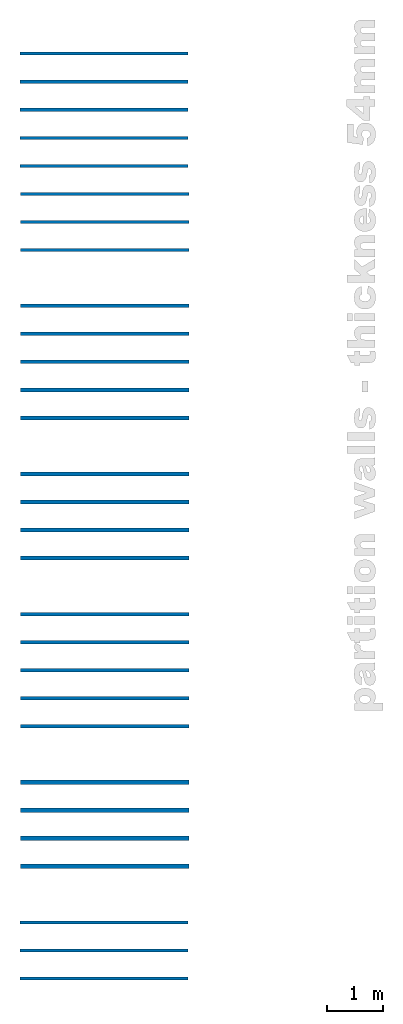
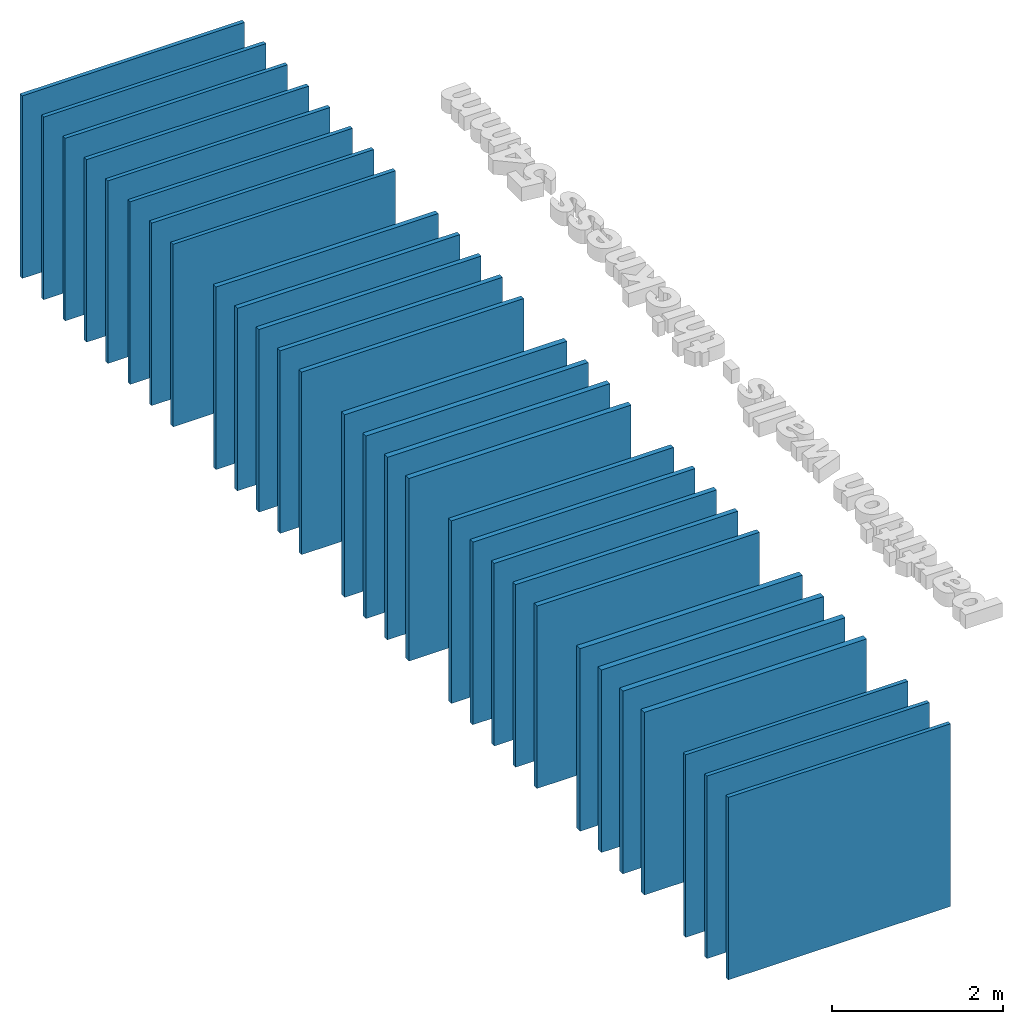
# One storey, incomplete: 29 walls.
"""IFC2X3 building model written with IfcOpenShell, lengths in millimetres."""

import ifcopenshell
import ifcopenshell.guid

model = None  # the IFC model being written
_history = None  # IfcOwnerHistory: only IFC2X3 demands one
_inside = {}  # id of a spatial element -> (the spatial element, [elements in it])
_under = {}  # id of a project, library or spatial element -> (it, [spatial elements below it])
_declared = {}  # id of a project -> (the project, [libraries it declares])
_typed = {}  # id of a type object -> (the type object, [elements of that type])
_made_of = {}  # id of a material, layer set ... -> (it, [elements and type objects made of it])


def new_model(schema):
    """Start an empty IFC model of exactly this schema.

    Asked for "IFC4X3", IfcOpenShell would pick the latest addendum, in which some entities
    have other attributes; the version numbers below select the first issue.
    IFC2X3 requires an IfcOwnerHistory on every rooted entity: one is made here for all.
    """
    global model, _history
    if schema == "IFC4X3":
        model = ifcopenshell.file(schema_version=(4, 3, 0, 0))
    else:
        model = ifcopenshell.file(schema=schema)
    _inside.clear()
    _under.clear()
    _declared.clear()
    _typed.clear()
    _made_of.clear()
    _history = None
    if model.schema == "IFC2X3":
        org = make("IfcOrganization", Name="unknown")
        user = make(
            "IfcPersonAndOrganization",
            ThePerson=make("IfcPerson", FamilyName="unknown"),
            TheOrganization=org,
        )
        app = make(
            "IfcApplication",
            ApplicationDeveloper=org,
            Version="unknown",
            ApplicationFullName="unknown",
            ApplicationIdentifier="unknown",
        )
        _history = make(
            "IfcOwnerHistory",
            OwningUser=user,
            OwningApplication=app,
            ChangeAction="ADDED",
            CreationDate=0,
        )
    return model


def make(cls, **values):
    """One entity of the class cls with the attributes given. An attribute that is None is left unset."""
    return model.create_entity(
        cls, **{name: value for name, value in values.items() if value is not None}
    )


def entity(cls, *values):
    """Any entity or typed value of the class cls, its attributes in the order of the schema. None: left unset."""
    e = model.create_entity(cls)
    for i, value in enumerate(values):
        if value is not None:
            e[i] = value
    return e


def rooted(cls, **values):
    """An entity with a GlobalId (a new one), such as an element, a storey or a relation."""
    return make(cls, GlobalId=ifcopenshell.guid.new(), OwnerHistory=_history, **values)


def si_unit(unit_type, name, prefix=None):
    """IfcSIUnit, for example si_unit("LENGTHUNIT", "METRE", prefix="MILLI")."""
    return make("IfcSIUnit", UnitType=unit_type, Prefix=prefix, Name=name)


def converted_unit(unit_type, name, factor, base, dimensions=None, offset=None):
    """IfcConversionBasedUnit, such as the inch: factor (a typed value) times the base unit."""
    return make(
        "IfcConversionBasedUnit"
        if offset is None
        else "IfcConversionBasedUnitWithOffset",
        ConversionOffset=offset,
        Dimensions=None
        if dimensions is None
        else entity("IfcDimensionalExponents", *dimensions),
        UnitType=unit_type,
        Name=name,
        ConversionFactor=make(
            "IfcMeasureWithUnit", ValueComponent=factor, UnitComponent=base
        ),
    )


def derived_unit(unit_type, elements):
    """IfcDerivedUnit: a product of units, each with its exponent."""
    return make(
        "IfcDerivedUnit",
        Elements=[
            make("IfcDerivedUnitElement", Unit=unit, Exponent=power)
            for unit, power in elements
        ],
        UnitType=unit_type,
    )


def assignment(units):
    """IfcUnitAssignment: the units of a project."""
    return None if units is None else make("IfcUnitAssignment", Units=units)


def point(xyz):
    """IfcCartesianPoint."""
    return None if xyz is None else make("IfcCartesianPoint", Coordinates=xyz)


def direction(xyz):
    """IfcDirection."""
    return None if xyz is None else make("IfcDirection", DirectionRatios=xyz)


def frame(location, z_axis=None, x_axis=None):
    """IfcAxis2Placement3D, a coordinate frame: its origin and axes. An axis left out is left unset."""
    return make(
        "IfcAxis2Placement3D",
        Location=point(location),
        Axis=direction(z_axis),
        RefDirection=direction(x_axis),
    )


def frame_2d(location, x_axis=None):
    """IfcAxis2Placement2D, a coordinate frame in the plane: its origin and x axis."""
    return make(
        "IfcAxis2Placement2D", Location=point(location), RefDirection=direction(x_axis)
    )


def origin():
    """The frame at (0, 0, 0) with its axes left unset."""
    return frame((0.0, 0.0, 0.0))


def place(relative_to, where):
    """IfcLocalPlacement: puts the frame where relative to a parent placement (None: the world)."""
    return make(
        "IfcLocalPlacement", PlacementRelTo=relative_to, RelativePlacement=where
    )


def context(
    kind, dimensions, precision=None, world=None, true_north=None, identifier=None
):
    """IfcGeometricRepresentationContext, for example the 3D "Model" context."""
    return make(
        "IfcGeometricRepresentationContext",
        ContextIdentifier=identifier,
        ContextType=kind,
        CoordinateSpaceDimension=dimensions,
        Precision=precision,
        WorldCoordinateSystem=world,
        TrueNorth=true_north,
    )


def subcontext(parent, identifier, kind, view, scale=None):
    """IfcGeometricRepresentationSubContext, for example "Body" below "Model"."""
    return make(
        "IfcGeometricRepresentationSubContext",
        ContextIdentifier=identifier,
        ContextType=kind,
        ParentContext=parent,
        TargetScale=scale,
        TargetView=view,
    )


def project(units=None, contexts=None):
    """IfcProject with its units and contexts."""
    return rooted(
        "IfcProject",
        Name="project",
        RepresentationContexts=contexts,
        UnitsInContext=assignment(units),
    )


def spatial(cls, under=None, at=None, **own):
    """A site, building, storey or space (cls), placed at a placement, below another one or the project."""
    s = rooted(cls, ObjectPlacement=at, **own)
    if under is not None:
        _under.setdefault(under.id(), (under, []))[1].append(s)
    return s


def profile(cls, at=None, kind="AREA", **sizes):
    """A parametric profile (cls). Its sizes go by their IFC names, for example OverallWidth=200.0."""
    return make(cls, ProfileType=kind, Position=at, **sizes)


def rectangle(**sizes):
    """IfcRectangleProfileDef."""
    return profile("IfcRectangleProfileDef", **sizes)


def extrude(swept, where, along, depth):
    """IfcExtrudedAreaSolid: the profile swept, set in the frame where, extruded along a direction by depth."""
    return make(
        "IfcExtrudedAreaSolid",
        SweptArea=swept,
        Position=where,
        ExtrudedDirection=direction(along),
        Depth=depth,
    )


def shape(context_of_items, identifier, shape_type, items):
    """IfcShapeRepresentation: the items that make up one representation, for example the "Body"."""
    return make(
        "IfcShapeRepresentation",
        ContextOfItems=context_of_items,
        RepresentationIdentifier=identifier,
        RepresentationType=shape_type,
        Items=items,
    )


def material(Name=None, Category=None):
    """IfcMaterial."""
    return make("IfcMaterial", Name=Name, Category=Category)


def layer(
    of_material, thickness, ventilated=None, Name=None, Category=None, Priority=None
):
    """IfcMaterialLayer: one layer of a wall or slab, of a material (None: an air gap)."""
    return make(
        "IfcMaterialLayer",
        Material=of_material,
        LayerThickness=thickness,
        IsVentilated=ventilated,
        Name=Name,
        Category=Category,
        Priority=Priority,
    )


def layer_set(layers, Name=None):
    """IfcMaterialLayerSet."""
    return make("IfcMaterialLayerSet", MaterialLayers=layers, LayerSetName=Name)


def layer_usage(for_layer_set, set_direction, sense, offset, extent=None):
    """IfcMaterialLayerSetUsage: how a layer set lies in its element."""
    return make(
        "IfcMaterialLayerSetUsage",
        ForLayerSet=for_layer_set,
        LayerSetDirection=set_direction,
        DirectionSense=sense,
        OffsetFromReferenceLine=offset,
        ReferenceExtent=extent,
    )


def made_of(thing, what):
    """Note that an element or type object is made of a material, layer set ...; save() writes the relation."""
    if what is not None:
        _made_of.setdefault(what.id(), (what, []))[1].append(thing)
    return thing


def type_object(cls, material=None, **own):
    """A type object (cls), such as IfcWallType, which elements share."""
    return made_of(rooted(cls, **own), material)


def element(
    cls,
    number,
    at=None,
    inside=None,
    cuts=None,
    type_object=None,
    material=None,
    context=None,
    identifier="Body",
    shape_type=None,
    held_by="IfcProductDefinitionShape",
    body=None,
    shapes=None,
    **own,
):
    """One element of the class cls, such as IfcWall. Its Tag is "e" and its number.

    at: its placement. inside: the storey or other place that contains it. cuts: it is an
    opening in that element (IfcRelVoidsElement). A single representation is given by context,
    identifier, shape_type and body (its items); several are given by shapes. held_by: the class
    of the entity that holds the representations. save() writes the other relations.
    """
    e = rooted(cls, Tag="e%d" % number, ObjectPlacement=at, **own)
    if body is not None:
        shapes = [shape(context, identifier, shape_type, body)]
    if shapes is not None:
        e.Representation = make(held_by, Representations=shapes)
    if inside is not None:
        _inside.setdefault(inside.id(), (inside, []))[1].append(e)
    if cuts is not None:
        rooted(
            "IfcRelVoidsElement", RelatingBuildingElement=cuts, RelatedOpeningElement=e
        )
    if type_object is not None:
        _typed.setdefault(type_object.id(), (type_object, []))[1].append(e)
    return made_of(e, material)


def aggregate(whole, parts):
    """IfcRelAggregates: a whole, such as a stair, and the parts it consists of."""
    return rooted("IfcRelAggregates", RelatingObject=whole, RelatedObjects=parts)


def save(model, path):
    """Write the relations noted so far, then the file.

    IfcRelAggregates (storeys below a building ...), IfcRelContainedInSpatialStructure (elements
    in a storey), IfcRelDefinesByType, IfcRelAssociatesMaterial and IfcRelDeclares: one each for
    every whole, place, type object, material and project.
    """
    for whole, parts in _under.values():
        aggregate(whole, parts)
    for where, things in _inside.values():
        rooted(
            "IfcRelContainedInSpatialStructure",
            RelatedElements=things,
            RelatingStructure=where,
        )
    for kind, things in _typed.values():
        rooted("IfcRelDefinesByType", RelatedObjects=things, RelatingType=kind)
    for what, things in _made_of.values():
        rooted("IfcRelAssociatesMaterial", RelatedObjects=things, RelatingMaterial=what)
    for by, libraries in _declared.values():
        rooted("IfcRelDeclares", RelatingContext=by, RelatedDefinitions=libraries)
    model.write(path)


model = new_model("IFC2X3")

# Units and contexts
model_context = context("Model", 3, precision=0.01, world=origin(), true_north=direction((6.12303176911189e-17, 1.0)))
context_of_model = context(None, 3, precision=0.01, world=origin(), true_north=direction((6.12303176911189e-17, 1.0)))
body_context = subcontext(model_context, "Body", "Model", "MODEL_VIEW")
ifc_project = project(units=[si_unit("LENGTHUNIT", "METRE", prefix="MILLI"), si_unit("AREAUNIT", "SQUARE_METRE"), si_unit("VOLUMEUNIT", "CUBIC_METRE"), converted_unit("PLANEANGLEUNIT", "DEGREE", entity("IfcRatioMeasure", 0.0174532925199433), si_unit("PLANEANGLEUNIT", "RADIAN"), dimensions=[0, 0, 0, 0, 0, 0, 0]), si_unit("MASSUNIT", "GRAM", prefix="KILO"), si_unit("TIMEUNIT", "SECOND"), si_unit("FREQUENCYUNIT", "HERTZ"), si_unit("THERMODYNAMICTEMPERATUREUNIT", "DEGREE_CELSIUS"), derived_unit("THERMALTRANSMITTANCEUNIT", [(si_unit("MASSUNIT", "GRAM", prefix="KILO"), 1), (si_unit("THERMODYNAMICTEMPERATUREUNIT", "KELVIN"), -1), (si_unit("TIMEUNIT", "SECOND"), -3)]), derived_unit("VOLUMETRICFLOWRATEUNIT", [(si_unit("LENGTHUNIT", "METRE"), 3), (si_unit("TIMEUNIT", "SECOND"), -1)]), si_unit("ELECTRICCURRENTUNIT", "AMPERE"), si_unit("ELECTRICVOLTAGEUNIT", "VOLT"), si_unit("POWERUNIT", "WATT"), si_unit("FORCEUNIT", "NEWTON", prefix="KILO"), si_unit("ILLUMINANCEUNIT", "LUX"), si_unit("LUMINOUSFLUXUNIT", "LUMEN"), si_unit("LUMINOUSINTENSITYUNIT", "CANDELA"), si_unit("PRESSUREUNIT", "PASCAL")], contexts=[model_context, context_of_model])

# Site, building, storey
site_placement = place(None, origin())
site = spatial("IfcSite", under=ifc_project, at=site_placement, Name="Default", CompositionType="ELEMENT")
building_placement = place(site_placement, origin())
building = spatial("IfcBuilding", under=site, at=building_placement, CompositionType="ELEMENT")
storey_placement = place(building_placement, origin())
storey = spatial("IfcBuildingStorey", under=building, at=storey_placement, Name="faay_bottom_view_color", CompositionType="ELEMENT", Elevation=0.0)

# Walls
ifc_material_1 = material(Name="faay_gypsum_WR")
ifc_layer_1 = layer(ifc_material_1, 10.0)
ifc_material_2 = material(Name="faay_flax")
ifc_layer_2 = layer(ifc_material_2, 34.0)
ifc_layer_3 = layer(ifc_material_1, 10.0)
ifc_layer_set_1 = layer_set([ifc_layer_1, ifc_layer_2, ifc_layer_3], Name="Basic Wall:Faay_22_VP54_WR2x")
ifc_layer_usage_1 = layer_usage(ifc_layer_set_1, "AXIS2", "NEGATIVE", 27.0)
wall_type_1 = type_object("IfcWallType", Name="Basic Wall:Faay_22_VP54_WR2x", PredefinedType="STANDARD", material=ifc_layer_set_1)
wall_1_placement = place(storey_placement, frame((-12155.9819316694, 15194.1673835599, 0.0)))
element("IfcWallStandardCase", 1, at=wall_1_placement, inside=storey, type_object=wall_type_1, material=ifc_layer_usage_1, Name="Basic Wall:Faay_22_VP54_WR2x", ObjectType="Basic Wall:Faay_22_VP54_WR2x", context=body_context, shape_type="SweptSolid", body=[
    extrude(rectangle(XDim=2999.99999999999, YDim=54.0000000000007, at=frame_2d((1500.0, -4.35207425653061e-13), x_axis=(-1.0, 0.0))), origin(), (0.0, 0.0, 1.0), 2605.0),
])
ifc_material_3 = material(Name="faay_gypsum")
ifc_layer_4 = layer(ifc_material_3, 10.0)
ifc_layer_5 = layer(ifc_material_2, 34.0)
ifc_layer_6 = layer(ifc_material_1, 10.0)
ifc_layer_set_2 = layer_set([ifc_layer_4, ifc_layer_5, ifc_layer_6], Name="Basic Wall:Faay_22_VP54_WR1x_F")
ifc_layer_usage_2 = layer_usage(ifc_layer_set_2, "AXIS2", "NEGATIVE", 27.0)
wall_type_2 = type_object("IfcWallType", Name="Basic Wall:Faay_22_VP54_WR1x_F", PredefinedType="STANDARD", material=ifc_layer_set_2)
wall_2_placement = place(storey_placement, frame((-12155.9819316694, 16194.1673835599, 0.0)))
element("IfcWallStandardCase", 2, at=wall_2_placement, inside=storey, type_object=wall_type_2, material=ifc_layer_usage_2, Name="Basic Wall:Faay_22_VP54_WR1x_F", ObjectType="Basic Wall:Faay_22_VP54_WR1x_F", context=body_context, shape_type="SweptSolid", body=[
    extrude(rectangle(XDim=2999.99999999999, YDim=54.0000000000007, at=frame_2d((1499.99999999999, -4.35207425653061e-13), x_axis=(-1.0, 0.0))), origin(), (0.0, 0.0, 1.0), 2605.0),
])
ifc_layer_7 = layer(ifc_material_3, 10.0)
ifc_layer_8 = layer(ifc_material_2, 34.0)
ifc_layer_9 = layer(ifc_material_3, 10.0)
ifc_layer_set_3 = layer_set([ifc_layer_7, ifc_layer_8, ifc_layer_9], Name="Basic Wall:Faay_22_VP54_")
ifc_layer_usage_3 = layer_usage(ifc_layer_set_3, "AXIS2", "NEGATIVE", 27.0)
wall_type_3 = type_object("IfcWallType", Name="Basic Wall:Faay_22_VP54_", PredefinedType="STANDARD", material=ifc_layer_set_3)
wall_3_placement = place(storey_placement, frame((-12169.0659207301, 18693.8247672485, 0.0)))
element("IfcWallStandardCase", 3, at=wall_3_placement, inside=storey, type_object=wall_type_3, material=ifc_layer_usage_3, Name="Basic Wall:Faay_22_VP54_", ObjectType="Basic Wall:Faay_22_VP54_", context=body_context, shape_type="SweptSolid", body=[
    extrude(rectangle(XDim=2999.99999999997, YDim=54.0000000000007, at=frame_2d((1499.99999999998, 0.0), x_axis=(-1.0, 0.0))), origin(), (0.0, 0.0, 1.0), 2605.0),
])
ifc_layer_10 = layer(ifc_material_3, 10.0)
ifc_layer_11 = layer(ifc_material_2, 34.0)
ifc_layer_12 = layer(ifc_material_3, 10.0)
ifc_layer_set_4 = layer_set([ifc_layer_10, ifc_layer_11, ifc_layer_12], Name="Basic Wall:Faay_22_VP54_V1x")
ifc_layer_usage_4 = layer_usage(ifc_layer_set_4, "AXIS2", "NEGATIVE", 27.0)
wall_type_4 = type_object("IfcWallType", Name="Basic Wall:Faay_22_VP54_V1x", PredefinedType="STANDARD", material=ifc_layer_set_4)
wall_4_placement = place(storey_placement, frame((-12169.0659207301, 18193.8247672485, 0.0)))
element("IfcWallStandardCase", 4, at=wall_4_placement, inside=storey, type_object=wall_type_4, material=ifc_layer_usage_4, Name="Basic Wall:Faay_22_VP54_V1x", ObjectType="Basic Wall:Faay_22_VP54_V1x", context=body_context, shape_type="SweptSolid", body=[
    extrude(rectangle(XDim=2999.99999999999, YDim=54.0000000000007, at=frame_2d((1499.99999999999, 0.0), x_axis=(-1.0, 0.0))), origin(), (0.0, 0.0, 1.0), 2605.0),
])
ifc_layer_13 = layer(ifc_material_3, 10.0)
ifc_layer_14 = layer(ifc_material_2, 34.0)
ifc_layer_15 = layer(ifc_material_3, 10.0)
ifc_layer_set_5 = layer_set([ifc_layer_13, ifc_layer_14, ifc_layer_15], Name="Basic Wall:Faay_22_VP54_V2x")
ifc_layer_usage_5 = layer_usage(ifc_layer_set_5, "AXIS2", "NEGATIVE", 27.0)
wall_type_5 = type_object("IfcWallType", Name="Basic Wall:Faay_22_VP54_V2x", PredefinedType="STANDARD", material=ifc_layer_set_5)
wall_5_placement = place(storey_placement, frame((-12169.0659207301, 17693.8247672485, 0.0)))
element("IfcWallStandardCase", 5, at=wall_5_placement, inside=storey, type_object=wall_type_5, material=ifc_layer_usage_5, Name="Basic Wall:Faay_22_VP54_V2x", ObjectType="Basic Wall:Faay_22_VP54_V2x", context=body_context, shape_type="SweptSolid", body=[
    extrude(rectangle(XDim=2999.99999999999, YDim=54.0000000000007, at=frame_2d((1499.99999999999, 0.0), x_axis=(-1.0, 0.0))), origin(), (0.0, 0.0, 1.0), 2605.0),
])
ifc_layer_16 = layer(ifc_material_1, 10.0)
ifc_layer_17 = layer(ifc_material_2, 34.0)
ifc_layer_18 = layer(ifc_material_3, 10.0)
ifc_layer_set_6 = layer_set([ifc_layer_16, ifc_layer_17, ifc_layer_18], Name="Basic Wall:Faay_22_VP54_V1x_WR1x_B")
ifc_layer_usage_6 = layer_usage(ifc_layer_set_6, "AXIS2", "NEGATIVE", 27.0)
wall_type_6 = type_object("IfcWallType", Name="Basic Wall:Faay_22_VP54_V1x_WR1x_B", PredefinedType="STANDARD", material=ifc_layer_set_6)
wall_6_placement = place(storey_placement, frame((-12169.0659207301, 16693.8247672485, 0.0)))
element("IfcWallStandardCase", 6, at=wall_6_placement, inside=storey, type_object=wall_type_6, material=ifc_layer_usage_6, Name="Basic Wall:Faay_22_VP54_V1x_WR1x_B", ObjectType="Basic Wall:Faay_22_VP54_V1x_WR1x_B", context=body_context, shape_type="SweptSolid", body=[
    extrude(rectangle(XDim=2999.99999999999, YDim=54.0000000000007, at=frame_2d((1499.99999999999, -4.35207425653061e-13), x_axis=(-1.0, 0.0))), origin(), (0.0, 0.0, 1.0), 2605.0),
])
ifc_layer_19 = layer(ifc_material_1, 10.0)
ifc_layer_20 = layer(ifc_material_2, 34.0)
ifc_layer_21 = layer(ifc_material_3, 10.0)
ifc_layer_22 = layer(ifc_material_1, 10.0)
ifc_layer_set_7 = layer_set([ifc_layer_19, ifc_layer_20, ifc_layer_21, ifc_layer_22], Name="Basic Wall:Faay_22_VP54_10_1_WR2x")
ifc_layer_usage_7 = layer_usage(ifc_layer_set_7, "AXIS2", "NEGATIVE", 32.0)
wall_type_7 = type_object("IfcWallType", Name="Basic Wall:Faay_22_VP54_10_1_WR2x", PredefinedType="STANDARD", material=ifc_layer_set_7)
wall_7_placement = place(storey_placement, frame((-12155.9819316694, 12194.1673835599, 0.0)))
element("IfcWallStandardCase", 7, at=wall_7_placement, inside=storey, type_object=wall_type_7, material=ifc_layer_usage_7, Name="Basic Wall:Faay_22_VP54_10_1_WR2x", ObjectType="Basic Wall:Faay_22_VP54_10_1_WR2x", context=body_context, shape_type="SweptSolid", body=[
    extrude(rectangle(XDim=2999.99999999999, YDim=63.9999999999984, at=frame_2d((1499.99999999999, -4.35207425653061e-13), x_axis=(-1.0, 0.0))), origin(), (0.0, 0.0, 1.0), 2605.0),
])
ifc_layer_23 = layer(ifc_material_3, 10.0)
ifc_layer_24 = layer(ifc_material_2, 34.0)
ifc_layer_25 = layer(ifc_material_3, 10.0)
ifc_layer_26 = layer(ifc_material_1, 10.0)
ifc_layer_set_8 = layer_set([ifc_layer_23, ifc_layer_24, ifc_layer_25, ifc_layer_26], Name="Basic Wall:Faay_22_VP54_10_1_WR1x_F")
ifc_layer_usage_8 = layer_usage(ifc_layer_set_8, "AXIS2", "NEGATIVE", 32.0)
wall_type_8 = type_object("IfcWallType", Name="Basic Wall:Faay_22_VP54_10_1_WR1x_F", PredefinedType="STANDARD", material=ifc_layer_set_8)
wall_8_placement = place(storey_placement, frame((-12155.9819316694, 13194.1673835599, 0.0)))
element("IfcWallStandardCase", 8, at=wall_8_placement, inside=storey, type_object=wall_type_8, material=ifc_layer_usage_8, Name="Basic Wall:Faay_22_VP54_10_1_WR1x_F", ObjectType="Basic Wall:Faay_22_VP54_10_1_WR1x_F", context=body_context, shape_type="SweptSolid", body=[
    extrude(rectangle(XDim=2999.99999999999, YDim=63.9999999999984, at=frame_2d((1499.99999999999, -4.35207425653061e-13), x_axis=(-1.0, 0.0))), origin(), (0.0, 0.0, 1.0), 2605.0),
])
ifc_layer_27 = layer(ifc_material_3, 10.0)
ifc_layer_28 = layer(ifc_material_2, 34.0)
ifc_layer_29 = layer(ifc_material_3, 10.0)
ifc_layer_30 = layer(ifc_material_3, 10.0)
ifc_layer_set_9 = layer_set([ifc_layer_27, ifc_layer_28, ifc_layer_29, ifc_layer_30], Name="Basic Wall:Faay_22_VP54_10_1_F")
ifc_layer_usage_9 = layer_usage(ifc_layer_set_9, "AXIS2", "NEGATIVE", 32.0)
wall_type_9 = type_object("IfcWallType", Name="Basic Wall:Faay_22_VP54_10_1_F", PredefinedType="STANDARD", material=ifc_layer_set_9)
wall_9_placement = place(storey_placement, frame((-12155.9819316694, 14194.1673835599, 0.0)))
element("IfcWallStandardCase", 9, at=wall_9_placement, inside=storey, type_object=wall_type_9, material=ifc_layer_usage_9, Name="Basic Wall:Faay_22_VP54_10_1_F", ObjectType="Basic Wall:Faay_22_VP54_10_1_F", context=body_context, shape_type="SweptSolid", body=[
    extrude(rectangle(XDim=2999.99999999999, YDim=63.9999999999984, at=frame_2d((1499.99999999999, -4.35207425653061e-13), x_axis=(-1.0, 0.0))), origin(), (0.0, 0.0, 1.0), 2605.0),
])
ifc_layer_31 = layer(ifc_material_1, 10.0)
ifc_layer_32 = layer(ifc_material_3, 10.0)
ifc_layer_33 = layer(ifc_material_2, 34.0)
ifc_layer_34 = layer(ifc_material_3, 10.0)
ifc_layer_35 = layer(ifc_material_3, 10.0)
ifc_layer_set_10 = layer_set([ifc_layer_31, ifc_layer_32, ifc_layer_33, ifc_layer_34, ifc_layer_35], Name="Basic Wall:Faay_22_VP54_10_2_WR1x_B")
ifc_layer_usage_10 = layer_usage(ifc_layer_set_10, "AXIS2", "NEGATIVE", 37.0)
wall_type_10 = type_object("IfcWallType", Name="Basic Wall:Faay_22_VP54_10_2_WR1x_B", PredefinedType="STANDARD", material=ifc_layer_set_10)
wall_10_placement = place(storey_placement, frame((-12155.9819316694, 10194.1673835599, 0.0)))
element("IfcWallStandardCase", 10, at=wall_10_placement, inside=storey, type_object=wall_type_10, material=ifc_layer_usage_10, Name="Basic Wall:Faay_22_VP54_10_2_WR1x_B", ObjectType="Basic Wall:Faay_22_VP54_10_2_WR1x_B", context=body_context, shape_type="SweptSolid", body=[
    extrude(rectangle(XDim=2999.99999999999, YDim=74.0000000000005, at=frame_2d((1500.0, -4.33431068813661e-13), x_axis=(-1.0, 0.0))), origin(), (0.0, 0.0, 1.0), 2605.0),
])
ifc_layer_36 = layer(ifc_material_3, 10.0)
ifc_layer_37 = layer(ifc_material_3, 10.0)
ifc_layer_38 = layer(ifc_material_2, 34.0)
ifc_layer_39 = layer(ifc_material_3, 10.0)
ifc_layer_40 = layer(ifc_material_3, 10.0)
ifc_layer_set_11 = layer_set([ifc_layer_36, ifc_layer_37, ifc_layer_38, ifc_layer_39, ifc_layer_40], Name="Basic Wall:Faay_22_VP54_10_2_")
ifc_layer_usage_11 = layer_usage(ifc_layer_set_11, "AXIS2", "NEGATIVE", 37.0)
wall_type_11 = type_object("IfcWallType", Name="Basic Wall:Faay_22_VP54_10_2_", PredefinedType="STANDARD", material=ifc_layer_set_11)
wall_11_placement = place(storey_placement, frame((-12155.9819316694, 11194.1673835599, 0.0)))
element("IfcWallStandardCase", 11, at=wall_11_placement, inside=storey, type_object=wall_type_11, material=ifc_layer_usage_11, Name="Basic Wall:Faay_22_VP54_10_2_", ObjectType="Basic Wall:Faay_22_VP54_10_2_", context=body_context, shape_type="SweptSolid", body=[
    extrude(rectangle(XDim=2999.99999999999, YDim=74.0000000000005, at=frame_2d((1500.0, -4.33431068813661e-13), x_axis=(-1.0, 0.0))), origin(), (0.0, 0.0, 1.0), 2605.0),
])
ifc_layer_41 = layer(ifc_material_1, 10.0)
ifc_layer_42 = layer(ifc_material_3, 10.0)
ifc_layer_43 = layer(ifc_material_2, 34.0)
ifc_layer_44 = layer(ifc_material_3, 10.0)
ifc_layer_45 = layer(ifc_material_1, 10.0)
ifc_layer_set_12 = layer_set([ifc_layer_41, ifc_layer_42, ifc_layer_43, ifc_layer_44, ifc_layer_45], Name="Basic Wall:Faay_22_VP54_10_2_WR2x")
ifc_layer_usage_12 = layer_usage(ifc_layer_set_12, "AXIS2", "NEGATIVE", 37.0)
wall_type_12 = type_object("IfcWallType", Name="Basic Wall:Faay_22_VP54_10_2_WR2x", PredefinedType="STANDARD", material=ifc_layer_set_12)
wall_12_placement = place(storey_placement, frame((-12155.9819316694, 9694.1673835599, 0.0)))
element("IfcWallStandardCase", 12, at=wall_12_placement, inside=storey, type_object=wall_type_12, material=ifc_layer_usage_12, Name="Basic Wall:Faay_22_VP54_10_2_WR2x", ObjectType="Basic Wall:Faay_22_VP54_10_2_WR2x", context=body_context, shape_type="SweptSolid", body=[
    extrude(rectangle(XDim=3000.0, YDim=74.0000000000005, at=frame_2d((1500.0, 1.06581410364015e-13), x_axis=(-1.0, 0.0))), origin(), (0.0, 0.0, 1.0), 2605.0),
])
ifc_layer_46 = layer(ifc_material_1, 10.0)
ifc_layer_47 = layer(ifc_material_2, 34.0)
ifc_layer_48 = layer(ifc_material_3, 10.0)
ifc_layer_49 = layer(ifc_material_1, 12.5)
ifc_layer_set_13 = layer_set([ifc_layer_46, ifc_layer_47, ifc_layer_48, ifc_layer_49], Name="Basic Wall:Faay_22_VP54_12.5_1_WR2x")
ifc_layer_usage_13 = layer_usage(ifc_layer_set_13, "AXIS2", "NEGATIVE", 33.25)
wall_type_13 = type_object("IfcWallType", Name="Basic Wall:Faay_22_VP54_12.5_1_WR2x", PredefinedType="STANDARD", material=ifc_layer_set_13)
wall_13_placement = place(storey_placement, frame((-12155.9819316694, 6694.1673835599, 0.0)))
element("IfcWallStandardCase", 13, at=wall_13_placement, inside=storey, type_object=wall_type_13, material=ifc_layer_usage_13, Name="Basic Wall:Faay_22_VP54_12.5_1_WR2x", ObjectType="Basic Wall:Faay_22_VP54_12.5_1_WR2x", context=body_context, shape_type="SweptSolid", body=[
    extrude(rectangle(XDim=2999.99999999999, YDim=66.5, at=frame_2d((1500.0, 1.06581410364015e-13), x_axis=(-1.0, 0.0))), origin(), (0.0, 0.0, 1.0), 2605.0),
])
ifc_layer_50 = layer(ifc_material_1, 10.0)
ifc_layer_51 = layer(ifc_material_2, 34.0)
ifc_layer_52 = layer(ifc_material_3, 10.0)
ifc_layer_53 = layer(ifc_material_3, 12.5)
ifc_layer_set_14 = layer_set([ifc_layer_50, ifc_layer_51, ifc_layer_52, ifc_layer_53], Name="Basic Wall:Faay_22_VP54_12.5_1_WR1x_B")
ifc_layer_usage_14 = layer_usage(ifc_layer_set_14, "AXIS2", "NEGATIVE", 33.25)
wall_type_14 = type_object("IfcWallType", Name="Basic Wall:Faay_22_VP54_12.5_1_WR1x_B", PredefinedType="STANDARD", material=ifc_layer_set_14)
wall_14_placement = place(storey_placement, frame((-12155.9819316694, 7194.1673835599, 0.0)))
element("IfcWallStandardCase", 14, at=wall_14_placement, inside=storey, type_object=wall_type_14, material=ifc_layer_usage_14, Name="Basic Wall:Faay_22_VP54_12.5_1_WR1x_B", ObjectType="Basic Wall:Faay_22_VP54_12.5_1_WR1x_B", context=body_context, shape_type="SweptSolid", body=[
    extrude(rectangle(XDim=3000.0, YDim=66.5, at=frame_2d((1500.0, 1.06581410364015e-13), x_axis=(-1.0, 0.0))), origin(), (0.0, 0.0, 1.0), 2605.0),
])
ifc_layer_54 = layer(ifc_material_3, 10.0)
ifc_layer_55 = layer(ifc_material_2, 34.0)
ifc_layer_56 = layer(ifc_material_3, 10.0)
ifc_layer_57 = layer(ifc_material_3, 12.5)
ifc_layer_set_15 = layer_set([ifc_layer_54, ifc_layer_55, ifc_layer_56, ifc_layer_57], Name="Basic Wall:Faay_22_VP54_12.5_1_F")
ifc_layer_usage_15 = layer_usage(ifc_layer_set_15, "AXIS2", "NEGATIVE", 33.25)
wall_type_15 = type_object("IfcWallType", Name="Basic Wall:Faay_22_VP54_12.5_1_F", PredefinedType="STANDARD", material=ifc_layer_set_15)
wall_15_placement = place(storey_placement, frame((-12155.9819316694, 8694.1673835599, 0.0)))
element("IfcWallStandardCase", 15, at=wall_15_placement, inside=storey, type_object=wall_type_15, material=ifc_layer_usage_15, Name="Basic Wall:Faay_22_VP54_12.5_1_F", ObjectType="Basic Wall:Faay_22_VP54_12.5_1_F", context=body_context, shape_type="SweptSolid", body=[
    extrude(rectangle(XDim=3000.0, YDim=66.5, at=frame_2d((1500.0, 1.06581410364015e-13), x_axis=(-1.0, 0.0))), origin(), (0.0, 0.0, 1.0), 2605.0),
])
ifc_material_4 = material(Name="faay_chipboard")
ifc_layer_58 = layer(ifc_material_4, 10.0)
ifc_layer_59 = layer(ifc_material_2, 34.0)
ifc_layer_60 = layer(ifc_material_4, 10.0)
ifc_layer_set_16 = layer_set([ifc_layer_58, ifc_layer_59, ifc_layer_60], Name="Basic Wall:Faay_22_SP54_")
ifc_layer_usage_16 = layer_usage(ifc_layer_set_16, "AXIS2", "NEGATIVE", 27.0)
wall_type_16 = type_object("IfcWallType", Name="Basic Wall:Faay_22_SP54_", PredefinedType="STANDARD", material=ifc_layer_set_16)
wall_16_placement = place(storey_placement, frame((-12169.0659207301, 3193.82476724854, 0.0)))
element("IfcWallStandardCase", 16, at=wall_16_placement, inside=storey, type_object=wall_type_16, material=ifc_layer_usage_16, Name="Basic Wall:Faay_22_SP54_", ObjectType="Basic Wall:Faay_22_SP54_", context=body_context, shape_type="SweptSolid", body=[
    extrude(rectangle(XDim=3000.0, YDim=53.9999999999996, at=frame_2d((1500.0, -1.65201186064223e-13), x_axis=(-1.0, 0.0))), origin(), (0.0, 0.0, 1.0), 2605.0),
])
ifc_layer_61 = layer(ifc_material_4, 10.0)
ifc_layer_62 = layer(ifc_material_2, 34.0)
ifc_layer_63 = layer(ifc_material_4, 10.0)
ifc_layer_set_17 = layer_set([ifc_layer_61, ifc_layer_62, ifc_layer_63], Name="Basic Wall:Faay_22_SP54_Fo")
ifc_layer_usage_17 = layer_usage(ifc_layer_set_17, "AXIS2", "NEGATIVE", 27.0)
wall_type_17 = type_object("IfcWallType", Name="Basic Wall:Faay_22_SP54_Fo", PredefinedType="STANDARD", material=ifc_layer_set_17)
wall_17_placement = place(storey_placement, frame((-12169.0659207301, 2693.82476724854, 0.0)))
element("IfcWallStandardCase", 17, at=wall_17_placement, inside=storey, type_object=wall_type_17, material=ifc_layer_usage_17, Name="Basic Wall:Faay_22_SP54_Fo", ObjectType="Basic Wall:Faay_22_SP54_Fo", context=body_context, shape_type="SweptSolid", body=[
    extrude(rectangle(XDim=3000.0, YDim=53.9999999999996, at=frame_2d((1500.0, -1.65201186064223e-13), x_axis=(-1.0, 0.0))), origin(), (0.0, 0.0, 1.0), 2605.0),
])
ifc_material_5 = material(Name="faay_Rigidur")
ifc_layer_64 = layer(ifc_material_5, 10.0)
ifc_layer_65 = layer(ifc_material_2, 34.0)
ifc_layer_66 = layer(ifc_material_5, 10.0)
ifc_layer_set_18 = layer_set([ifc_layer_64, ifc_layer_65, ifc_layer_66], Name="Basic Wall:Faay_22_RV54_")
ifc_layer_usage_18 = layer_usage(ifc_layer_set_18, "AXIS2", "NEGATIVE", 27.0)
wall_type_18 = type_object("IfcWallType", Name="Basic Wall:Faay_22_RV54_", PredefinedType="STANDARD", material=ifc_layer_set_18)
wall_18_placement = place(storey_placement, frame((-12169.0659207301, 2193.82476724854, 0.0)))
element("IfcWallStandardCase", 18, at=wall_18_placement, inside=storey, type_object=wall_type_18, material=ifc_layer_usage_18, Name="Basic Wall:Faay_22_RV54_", ObjectType="Basic Wall:Faay_22_RV54_", context=body_context, shape_type="SweptSolid", body=[
    extrude(rectangle(XDim=3000.0, YDim=54.0000000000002, at=frame_2d((1500.0, -3.01980662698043e-14), x_axis=(-1.0, 0.0))), origin(), (0.0, 0.0, 1.0), 2605.0),
])
ifc_layer_67 = layer(ifc_material_1, 10.0)
ifc_layer_68 = layer(ifc_material_2, 34.0)
ifc_layer_69 = layer(ifc_material_3, 10.0)
ifc_layer_set_19 = layer_set([ifc_layer_67, ifc_layer_68, ifc_layer_69], Name="Basic Wall:Faay_22_VP54_WR1x_B")
ifc_layer_usage_19 = layer_usage(ifc_layer_set_19, "AXIS2", "NEGATIVE", 27.0)
wall_type_19 = type_object("IfcWallType", Name="Basic Wall:Faay_22_VP54_WR1x_B", PredefinedType="STANDARD", material=ifc_layer_set_19)
wall_19_placement = place(storey_placement, frame((-12155.9819316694, 15694.1673835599, 0.0)))
element("IfcWallStandardCase", 19, at=wall_19_placement, inside=storey, type_object=wall_type_19, material=ifc_layer_usage_19, Name="Basic Wall:Faay_22_VP54_WR1x_B", ObjectType="Basic Wall:Faay_22_VP54_WR1x_B", context=body_context, shape_type="SweptSolid", body=[
    extrude(rectangle(XDim=2999.99999999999, YDim=54.0000000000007, at=frame_2d((1499.99999999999, -4.35207425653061e-13), x_axis=(-1.0, 0.0))), origin(), (0.0, 0.0, 1.0), 2605.0),
])
ifc_layer_70 = layer(ifc_material_3, 10.0)
ifc_layer_71 = layer(ifc_material_2, 34.0)
ifc_layer_72 = layer(ifc_material_1, 10.0)
ifc_layer_set_20 = layer_set([ifc_layer_70, ifc_layer_71, ifc_layer_72], Name="Basic Wall:Faay_22_VP54_V1x_WR1x_F")
ifc_layer_usage_20 = layer_usage(ifc_layer_set_20, "AXIS2", "NEGATIVE", 27.0)
wall_type_20 = type_object("IfcWallType", Name="Basic Wall:Faay_22_VP54_V1x_WR1x_F", PredefinedType="STANDARD", material=ifc_layer_set_20)
wall_20_placement = place(storey_placement, frame((-12169.0659207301, 17193.8247672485, 0.0)))
element("IfcWallStandardCase", 20, at=wall_20_placement, inside=storey, type_object=wall_type_20, material=ifc_layer_usage_20, Name="Basic Wall:Faay_22_VP54_V1x_WR1x_F", ObjectType="Basic Wall:Faay_22_VP54_V1x_WR1x_F", context=body_context, shape_type="SweptSolid", body=[
    extrude(rectangle(XDim=2999.99999999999, YDim=54.0000000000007, at=frame_2d((1499.99999999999, -4.35207425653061e-13), x_axis=(-1.0, 0.0))), origin(), (0.0, 0.0, 1.0), 2605.0),
])
ifc_layer_73 = layer(ifc_material_3, 10.0)
ifc_layer_74 = layer(ifc_material_3, 10.0)
ifc_layer_75 = layer(ifc_material_2, 34.0)
ifc_layer_76 = layer(ifc_material_3, 10.0)
ifc_layer_77 = layer(ifc_material_1, 10.0)
ifc_layer_set_21 = layer_set([ifc_layer_73, ifc_layer_74, ifc_layer_75, ifc_layer_76, ifc_layer_77], Name="Basic Wall:Faay_22_VP54_10_2_WR1x_F")
ifc_layer_usage_21 = layer_usage(ifc_layer_set_21, "AXIS2", "NEGATIVE", 37.0)
wall_type_21 = type_object("IfcWallType", Name="Basic Wall:Faay_22_VP54_10_2_WR1x_F", PredefinedType="STANDARD", material=ifc_layer_set_21)
wall_21_placement = place(storey_placement, frame((-12155.9819316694, 10694.1673835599, 0.0)))
element("IfcWallStandardCase", 21, at=wall_21_placement, inside=storey, type_object=wall_type_21, material=ifc_layer_usage_21, Name="Basic Wall:Faay_22_VP54_10_2_WR1x_F", ObjectType="Basic Wall:Faay_22_VP54_10_2_WR1x_F", context=body_context, shape_type="SweptSolid", body=[
    extrude(rectangle(XDim=2999.99999999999, YDim=74.0000000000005, at=frame_2d((1500.0, -4.33431068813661e-13), x_axis=(-1.0, 0.0))), origin(), (0.0, 0.0, 1.0), 2605.0),
])
ifc_layer_78 = layer(ifc_material_1, 10.0)
ifc_layer_79 = layer(ifc_material_3, 10.0)
ifc_layer_80 = layer(ifc_material_2, 34.0)
ifc_layer_81 = layer(ifc_material_3, 10.0)
ifc_layer_set_22 = layer_set([ifc_layer_78, ifc_layer_79, ifc_layer_80, ifc_layer_81], Name="Basic Wall:Faay_22_VP54_10_1_WR1x_B")
ifc_layer_usage_22 = layer_usage(ifc_layer_set_22, "AXIS2", "NEGATIVE", 32.0)
wall_type_22 = type_object("IfcWallType", Name="Basic Wall:Faay_22_VP54_10_1_WR1x_B", PredefinedType="STANDARD", material=ifc_layer_set_22)
wall_22_placement = place(storey_placement, frame((-12155.9819316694, 12694.1673835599, 0.0)))
element("IfcWallStandardCase", 22, at=wall_22_placement, inside=storey, type_object=wall_type_22, material=ifc_layer_usage_22, Name="Basic Wall:Faay_22_VP54_10_1_WR1x_B", ObjectType="Basic Wall:Faay_22_VP54_10_1_WR1x_B", context=body_context, shape_type="SweptSolid", body=[
    extrude(rectangle(XDim=2999.99999999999, YDim=63.9999999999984, at=frame_2d((1499.99999999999, -4.35207425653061e-13), x_axis=(-1.0, 0.0))), origin(), (0.0, 0.0, 1.0), 2605.0),
])
ifc_layer_82 = layer(ifc_material_3, 12.5)
ifc_layer_83 = layer(ifc_material_3, 10.0)
ifc_layer_84 = layer(ifc_material_2, 34.0)
ifc_layer_85 = layer(ifc_material_1, 10.0)
ifc_layer_set_23 = layer_set([ifc_layer_82, ifc_layer_83, ifc_layer_84, ifc_layer_85], Name="Basic Wall:Faay_22_VP54_12.5_1_WR1x_F")
ifc_layer_usage_23 = layer_usage(ifc_layer_set_23, "AXIS2", "NEGATIVE", 33.25)
wall_type_23 = type_object("IfcWallType", Name="Basic Wall:Faay_22_VP54_12.5_1_WR1x_F", PredefinedType="STANDARD", material=ifc_layer_set_23)
wall_23_placement = place(storey_placement, frame((-12155.9819316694, 7694.1673835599, 0.0)))
element("IfcWallStandardCase", 23, at=wall_23_placement, inside=storey, type_object=wall_type_23, material=ifc_layer_usage_23, Name="Basic Wall:Faay_22_VP54_12.5_1_WR1x_F", ObjectType="Basic Wall:Faay_22_VP54_12.5_1_WR1x_F", context=body_context, shape_type="SweptSolid", body=[
    extrude(rectangle(XDim=3000.0, YDim=66.5, at=frame_2d((1500.0, 1.06581410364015e-13), x_axis=(-1.0, 0.0))), origin(), (0.0, 0.0, 1.0), 2605.0),
])
ifc_layer_86 = layer(ifc_material_3, 10.0)
ifc_layer_87 = layer(ifc_material_3, 10.0)
ifc_layer_88 = layer(ifc_material_2, 34.0)
ifc_layer_89 = layer(ifc_material_3, 10.0)
ifc_layer_set_24 = layer_set([ifc_layer_86, ifc_layer_87, ifc_layer_88, ifc_layer_89], Name="Basic Wall:Faay_22_VP54_10_1_B")
ifc_layer_usage_24 = layer_usage(ifc_layer_set_24, "AXIS2", "NEGATIVE", 32.0)
wall_type_24 = type_object("IfcWallType", Name="Basic Wall:Faay_22_VP54_10_1_B", PredefinedType="STANDARD", material=ifc_layer_set_24)
wall_24_placement = place(storey_placement, frame((-12155.9819316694, 13694.1673835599, 0.0)))
element("IfcWallStandardCase", 24, at=wall_24_placement, inside=storey, type_object=wall_type_24, material=ifc_layer_usage_24, Name="Basic Wall:Faay_22_VP54_10_1_B", ObjectType="Basic Wall:Faay_22_VP54_10_1_B", context=body_context, shape_type="SweptSolid", body=[
    extrude(rectangle(XDim=2999.99999999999, YDim=63.9999999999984, at=frame_2d((1499.99999999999, -4.35207425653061e-13), x_axis=(-1.0, 0.0))), origin(), (0.0, 0.0, 1.0), 2605.0),
])
ifc_layer_90 = layer(ifc_material_3, 12.5)
ifc_layer_91 = layer(ifc_material_3, 10.0)
ifc_layer_92 = layer(ifc_material_2, 34.0)
ifc_layer_93 = layer(ifc_material_3, 10.0)
ifc_layer_set_25 = layer_set([ifc_layer_90, ifc_layer_91, ifc_layer_92, ifc_layer_93], Name="Basic Wall:Faay_22_VP54_12.5_1_B")
ifc_layer_usage_25 = layer_usage(ifc_layer_set_25, "AXIS2", "NEGATIVE", 33.25)
wall_type_25 = type_object("IfcWallType", Name="Basic Wall:Faay_22_VP54_12.5_1_B", PredefinedType="STANDARD", material=ifc_layer_set_25)
wall_25_placement = place(storey_placement, frame((-12155.9819316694, 8194.1673835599, 0.0)))
element("IfcWallStandardCase", 25, at=wall_25_placement, inside=storey, type_object=wall_type_25, material=ifc_layer_usage_25, Name="Basic Wall:Faay_22_VP54_12.5_1_B", ObjectType="Basic Wall:Faay_22_VP54_12.5_1_B", context=body_context, shape_type="SweptSolid", body=[
    extrude(rectangle(XDim=3000.0, YDim=66.5, at=frame_2d((1500.0, 1.06581410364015e-13), x_axis=(-1.0, 0.0))), origin(), (0.0, 0.0, 1.0), 2605.0),
])
ifc_layer_94 = layer(ifc_material_1, 12.5)
ifc_layer_95 = layer(ifc_material_3, 10.0)
ifc_layer_96 = layer(ifc_material_2, 34.0)
ifc_layer_97 = layer(ifc_material_3, 10.0)
ifc_layer_98 = layer(ifc_material_3, 12.5)
ifc_layer_set_26 = layer_set([ifc_layer_94, ifc_layer_95, ifc_layer_96, ifc_layer_97, ifc_layer_98], Name="Basic Wall:Faay_22_VP54_12.5_2_WR1x_B")
ifc_layer_usage_26 = layer_usage(ifc_layer_set_26, "AXIS2", "NEGATIVE", 39.5)
wall_type_26 = type_object("IfcWallType", Name="Basic Wall:Faay_22_VP54_12.5_2_WR1x_B", PredefinedType="STANDARD", material=ifc_layer_set_26)
wall_26_placement = place(storey_placement, frame((-12155.9819316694, 4694.1673835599, 0.0)))
element("IfcWallStandardCase", 26, at=wall_26_placement, inside=storey, type_object=wall_type_26, material=ifc_layer_usage_26, Name="Basic Wall:Faay_22_VP54_12.5_2_WR1x_B", ObjectType="Basic Wall:Faay_22_VP54_12.5_2_WR1x_B", context=body_context, shape_type="SweptSolid", body=[
    extrude(rectangle(XDim=2999.99999999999, YDim=79.0000000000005, at=frame_2d((1500.0, -1.66977542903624e-13), x_axis=(-1.0, 0.0))), origin(), (0.0, 0.0, 1.0), 2605.0),
])
ifc_layer_99 = layer(ifc_material_3, 12.5)
ifc_layer_100 = layer(ifc_material_3, 10.0)
ifc_layer_101 = layer(ifc_material_2, 34.0)
ifc_layer_102 = layer(ifc_material_3, 10.0)
ifc_layer_103 = layer(ifc_material_3, 12.5)
ifc_layer_set_27 = layer_set([ifc_layer_99, ifc_layer_100, ifc_layer_101, ifc_layer_102, ifc_layer_103], Name="Basic Wall:Faay_22_VP54_12.5_2_")
ifc_layer_usage_27 = layer_usage(ifc_layer_set_27, "AXIS2", "NEGATIVE", 39.5)
wall_type_27 = type_object("IfcWallType", Name="Basic Wall:Faay_22_VP54_12.5_2_", PredefinedType="STANDARD", material=ifc_layer_set_27)
wall_27_placement = place(storey_placement, frame((-12155.9819316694, 5694.1673835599, 0.0)))
element("IfcWallStandardCase", 27, at=wall_27_placement, inside=storey, type_object=wall_type_27, material=ifc_layer_usage_27, Name="Basic Wall:Faay_22_VP54_12.5_2_", ObjectType="Basic Wall:Faay_22_VP54_12.5_2_", context=body_context, shape_type="SweptSolid", body=[
    extrude(rectangle(XDim=2999.99999999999, YDim=78.9999999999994, at=frame_2d((1500.0, 1.06581410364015e-13), x_axis=(-1.0, 0.0))), origin(), (0.0, 0.0, 1.0), 2605.0),
])
ifc_layer_104 = layer(ifc_material_1, 12.5)
ifc_layer_105 = layer(ifc_material_3, 10.0)
ifc_layer_106 = layer(ifc_material_2, 34.0)
ifc_layer_107 = layer(ifc_material_3, 10.0)
ifc_layer_108 = layer(ifc_material_1, 12.5)
ifc_layer_set_28 = layer_set([ifc_layer_104, ifc_layer_105, ifc_layer_106, ifc_layer_107, ifc_layer_108], Name="Basic Wall:Faay_22_VP54_12.5_2_WR2x")
ifc_layer_usage_28 = layer_usage(ifc_layer_set_28, "AXIS2", "NEGATIVE", 39.5)
wall_type_28 = type_object("IfcWallType", Name="Basic Wall:Faay_22_VP54_12.5_2_WR2x", PredefinedType="STANDARD", material=ifc_layer_set_28)
wall_28_placement = place(storey_placement, frame((-12155.9819316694, 4194.1673835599, 0.0)))
element("IfcWallStandardCase", 28, at=wall_28_placement, inside=storey, type_object=wall_type_28, material=ifc_layer_usage_28, Name="Basic Wall:Faay_22_VP54_12.5_2_WR2x", ObjectType="Basic Wall:Faay_22_VP54_12.5_2_WR2x", context=body_context, shape_type="SweptSolid", body=[
    extrude(rectangle(XDim=3000.0, YDim=79.0000000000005, at=frame_2d((1500.0, -1.66977542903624e-13), x_axis=(-1.0, 0.0))), origin(), (0.0, 0.0, 1.0), 2605.0),
])
ifc_layer_109 = layer(ifc_material_3, 12.5)
ifc_layer_110 = layer(ifc_material_3, 10.0)
ifc_layer_111 = layer(ifc_material_2, 34.0)
ifc_layer_112 = layer(ifc_material_3, 10.0)
ifc_layer_113 = layer(ifc_material_1, 12.5)
ifc_layer_set_29 = layer_set([ifc_layer_109, ifc_layer_110, ifc_layer_111, ifc_layer_112, ifc_layer_113], Name="Basic Wall:Faay_22_VP54_12.5_2_WR1x_F")
ifc_layer_usage_29 = layer_usage(ifc_layer_set_29, "AXIS2", "NEGATIVE", 39.5)
wall_type_29 = type_object("IfcWallType", Name="Basic Wall:Faay_22_VP54_12.5_2_WR1x_F", PredefinedType="STANDARD", material=ifc_layer_set_29)
wall_29_placement = place(storey_placement, frame((-12155.9819316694, 5194.1673835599, 0.0)))
element("IfcWallStandardCase", 29, at=wall_29_placement, inside=storey, type_object=wall_type_29, material=ifc_layer_usage_29, Name="Basic Wall:Faay_22_VP54_12.5_2_WR1x_F", ObjectType="Basic Wall:Faay_22_VP54_12.5_2_WR1x_F", context=body_context, shape_type="SweptSolid", body=[
    extrude(rectangle(XDim=2999.99999999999, YDim=78.9999999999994, at=frame_2d((1500.0, 1.06581410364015e-13), x_axis=(-1.0, 0.0))), origin(), (0.0, 0.0, 1.0), 2605.0),
])

save(model, "model.ifc")
